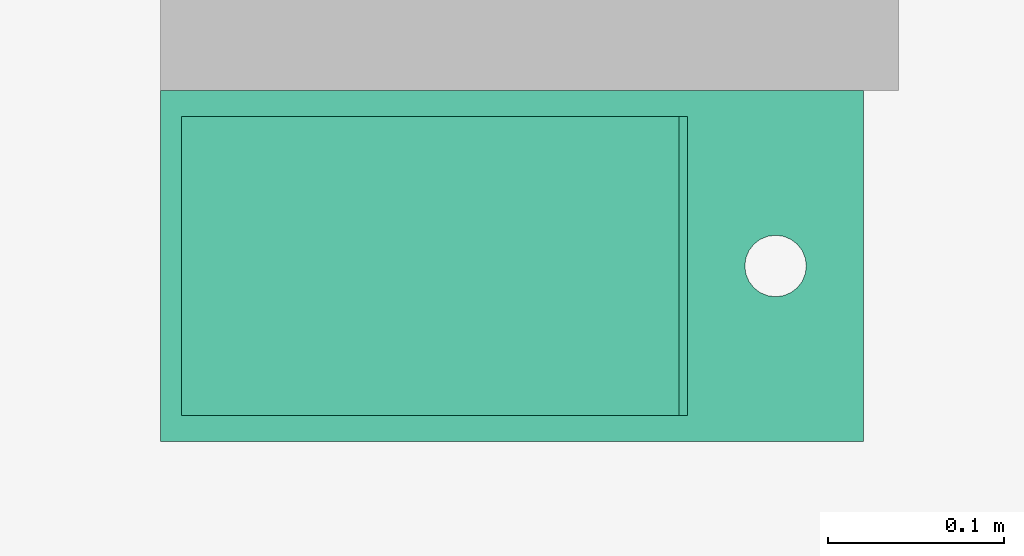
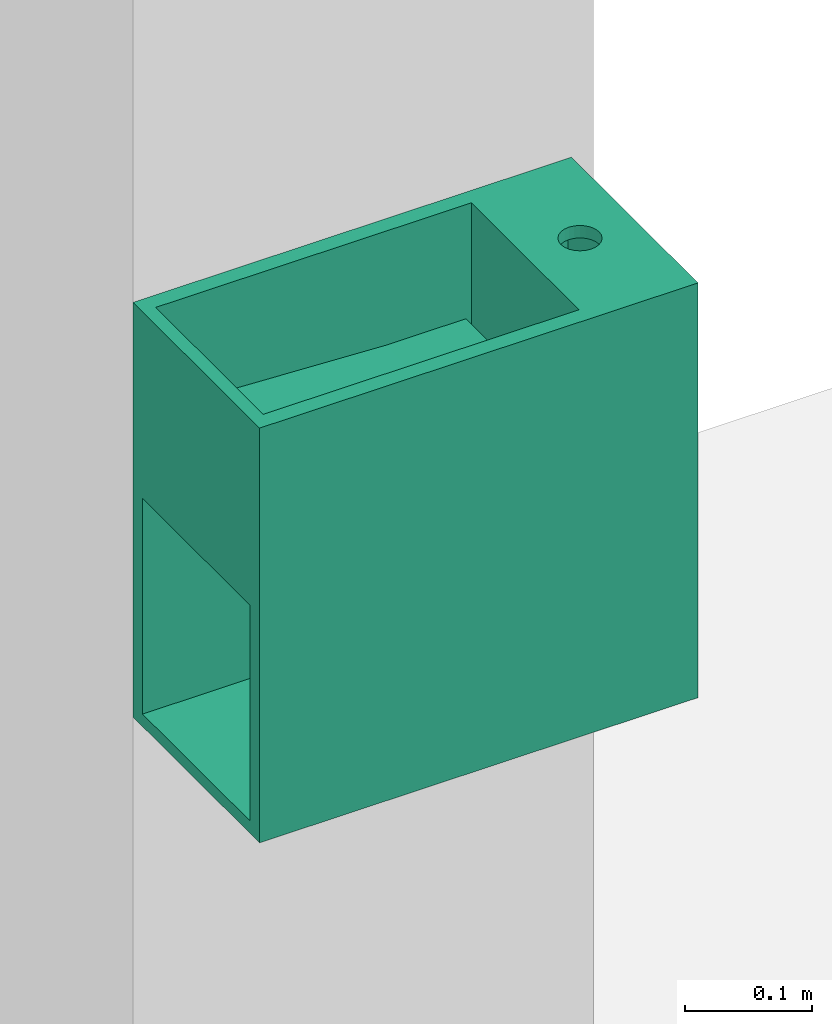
# One storey, part 2 of 2: 1 flow terminal.
"""IFC2X3 building model written with IfcOpenShell, lengths in millimetres."""

from ifc_helpers import new_model, entity, si_unit, converted_unit, derived_unit, direction, frame, origin, place, context, subcontext, project, spatial, faceted_brep, source, transform, mapped, material, element, save


model = new_model("IFC2X3")

# Units and contexts
model_context = context("Model", 3, precision=0.01, world=origin(), true_north=direction((6.12303176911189e-17, 1.0)))
context_of_model = context(None, 3, precision=0.01, world=origin(), true_north=direction((6.12303176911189e-17, 1.0)))
body_context = subcontext(model_context, "Body", "Model", "MODEL_VIEW")
ifc_project = project(units=[si_unit("LENGTHUNIT", "METRE", prefix="MILLI"), si_unit("AREAUNIT", "SQUARE_METRE"), si_unit("VOLUMEUNIT", "CUBIC_METRE"), converted_unit("PLANEANGLEUNIT", "DEGREE", entity("IfcRatioMeasure", 0.0174532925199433), si_unit("PLANEANGLEUNIT", "RADIAN"), dimensions=[0, 0, 0, 0, 0, 0, 0]), si_unit("MASSUNIT", "GRAM", prefix="KILO"), derived_unit("MASSDENSITYUNIT", [(si_unit("MASSUNIT", "GRAM", prefix="KILO"), 1), (si_unit("LENGTHUNIT", "METRE"), -3)]), si_unit("TIMEUNIT", "SECOND"), si_unit("FREQUENCYUNIT", "HERTZ"), si_unit("THERMODYNAMICTEMPERATUREUNIT", "DEGREE_CELSIUS"), derived_unit("THERMALTRANSMITTANCEUNIT", [(si_unit("MASSUNIT", "GRAM", prefix="KILO"), 1), (si_unit("THERMODYNAMICTEMPERATUREUNIT", "KELVIN"), -1), (si_unit("TIMEUNIT", "SECOND"), -3)]), derived_unit("VOLUMETRICFLOWRATEUNIT", [(si_unit("LENGTHUNIT", "METRE"), 3), (si_unit("TIMEUNIT", "SECOND"), -1)]), si_unit("ELECTRICCURRENTUNIT", "AMPERE"), si_unit("ELECTRICVOLTAGEUNIT", "VOLT"), si_unit("POWERUNIT", "WATT"), si_unit("FORCEUNIT", "NEWTON", prefix="KILO"), si_unit("ILLUMINANCEUNIT", "LUX"), si_unit("LUMINOUSFLUXUNIT", "LUMEN"), si_unit("LUMINOUSINTENSITYUNIT", "CANDELA"), derived_unit("USERDEFINED", [(si_unit("MASSUNIT", "GRAM", prefix="KILO"), -1), (si_unit("LENGTHUNIT", "METRE"), -2), (si_unit("TIMEUNIT", "SECOND"), 3), (si_unit("LUMINOUSFLUXUNIT", "LUMEN"), 1)]), derived_unit("LINEARVELOCITYUNIT", [(si_unit("LENGTHUNIT", "METRE"), 1), (si_unit("TIMEUNIT", "SECOND"), -1)]), si_unit("PRESSUREUNIT", "PASCAL"), derived_unit("USERDEFINED", [(si_unit("LENGTHUNIT", "METRE"), -2), (si_unit("MASSUNIT", "GRAM", prefix="KILO"), 1), (si_unit("TIMEUNIT", "SECOND"), -2)])], contexts=[model_context, context_of_model])

# Site, building, storey
site_placement = place(None, origin())
site = spatial("IfcSite", under=ifc_project, at=site_placement, Name="Default", CompositionType="ELEMENT")
building_placement = place(site_placement, origin())
building = spatial("IfcBuilding", under=site, at=building_placement, Name="n/a", CompositionType="ELEMENT")
storey_placement = place(building_placement, origin())
storey = spatial("IfcBuildingStorey", under=building, at=storey_placement, Name="Level 0", CompositionType="ELEMENT", Elevation=0.0)

# Flow terminal
ifc_material = material(Name="DBLTD_Neilur_SolidSurface_White")
shared_shape = source(origin(), body_context, "Body", "Brep", [
    faceted_brep([(104.999799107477, 185.0, 289.998284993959), (104.999799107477, 15.0, 289.998284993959), (177.99863639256, 15.0, 289.998284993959), (177.99863639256, 185.0, 289.998284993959), (104.999799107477, 185.0, 280.99899783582), (177.99863639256, 185.0, 280.99899783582), (177.99863639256, 15.0, 280.99899783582), (104.999799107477, 15.0, 280.99899783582)], [[[0, 1, 2, 3]], [[4, 5, 6, 7]], [[1, 0, 4, 7]], [[2, 1, 7, 6]], [[3, 2, 6, 5]], [[0, 3, 5, 4]]]),
    faceted_brep([(387.997929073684, 185.0, 219.999295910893), (387.997929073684, 185.0, 287.984553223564), (189.998640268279, 185.0, 278.55690154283), (189.998640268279, 185.0, 11.9997777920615), (400.0, 185.0, 11.9997777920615), (400.0, 185.0, 219.999295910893), (177.998636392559, 185.0, 277.998927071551), (177.998636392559, 185.0, 289.999813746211), (387.997929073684, 185.0, 299.998869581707), (387.997929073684, 185.0, 399.998320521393), (99.9991279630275, 185.0, 399.998320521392), (99.9991279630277, 185.0, 277.998927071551), (87.9986363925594, 185.0, 265.998923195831), (87.9986363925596, 185.0, 387.99876881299), (11.9990995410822, 185.0, 387.998768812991), (11.9990995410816, 185.0, 0.0), (177.998636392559, 185.0, 0.0), (177.99863639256, 185.0, 265.998923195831), (46.0, 14.9973722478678, 326.926523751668), (44.3431457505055, 14.9973722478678, 325.655174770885), (11.9990995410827, 14.9973722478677, 387.998768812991), (47.9294476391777, 14.9973722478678, 327.725727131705), (43.0717967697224, 14.9973722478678, 323.998320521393), (42.2725933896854, 14.9973722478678, 322.068872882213), (42.0, 14.9973722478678, 319.998320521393), (42.2725933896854, 14.9973722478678, 317.927768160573), (29.9992345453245, 14.9973722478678, 229.998782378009), (43.0717967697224, 14.9973722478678, 315.998320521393), (44.3431457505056, 14.9973722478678, 314.3414662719), (46.0, 14.9973722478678, 313.070117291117), (47.9294476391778, 14.9973722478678, 312.27091391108), (50.0, 14.9973722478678, 311.998320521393), (87.99863639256, 14.997372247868, 265.998923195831), (52.0705523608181, 14.9973722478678, 312.27091391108), (54.0, 14.9973722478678, 313.070117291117), (55.6568542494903, 14.9973722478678, 314.3414662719), (56.9282032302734, 14.9973722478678, 315.998320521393), (57.7274066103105, 14.9973722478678, 317.927768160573), (58.0, 14.9973722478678, 319.998320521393), (87.9986363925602, 14.997372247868, 387.99876881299), (57.7274066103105, 14.9973722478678, 322.068872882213), (56.9282032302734, 14.9973722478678, 323.998320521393), (55.6568542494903, 14.9973722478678, 325.655174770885), (54.0, 14.9973722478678, 326.926523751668), (52.0705523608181, 14.9973722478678, 327.725727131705), (50.0, 14.9973722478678, 327.998320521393), (177.99863639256, 14.9973722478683, 229.998782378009), (177.99863639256, 14.9973722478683, 265.998923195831), (11.9990995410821, 14.9973722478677, 0.0), (29.9992345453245, 14.9973722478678, 29.9998482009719), (177.99863639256, 14.9973722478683, 0.0), (177.99863639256, 14.9973722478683, 29.9998482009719), (177.99863639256, 14.9973722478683, 289.999813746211), (177.99863639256, 14.9973722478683, 277.998927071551), (99.9991279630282, 14.997372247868, 277.998927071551), (99.999127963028, 14.997372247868, 399.998320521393), (387.997929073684, 14.9973722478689, 399.998320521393), (387.997929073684, 14.9973722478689, 299.998869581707), (347.92944763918, 14.9973722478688, 267.725727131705), (346.0, 14.9973722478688, 266.926523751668), (189.998640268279, 14.9973722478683, 278.55690154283), (387.997929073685, 14.9973722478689, 287.984553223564), (350.0, 14.9973722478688, 267.998320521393), (344.343145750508, 14.9973722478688, 265.655174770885), (343.071796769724, 14.9973722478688, 263.998320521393), (342.272593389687, 14.9973722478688, 262.068872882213), (342.0, 14.997372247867, 259.998320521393), (342.272593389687, 14.9973722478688, 257.927768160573), (343.071796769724, 14.9973722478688, 255.998320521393), (344.343145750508, 14.9973722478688, 254.3414662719), (189.998640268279, 14.9973722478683, 11.9997777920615), (346.0, 14.9973722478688, 253.070117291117), (387.997929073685, 14.9973722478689, 219.999295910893), (347.92944763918, 14.9973722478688, 252.27091391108), (350.0, 14.9973722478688, 251.998320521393), (352.07055236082, 14.9973722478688, 252.27091391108), (354.0, 14.9973722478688, 253.070117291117), (355.656854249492, 14.9973722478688, 254.3414662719), (356.928203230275, 14.9973722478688, 255.998320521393), (357.727406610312, 14.9973722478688, 257.927768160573), (358.0, 14.9973722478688, 259.998320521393), (357.727406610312, 14.9973722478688, 262.068872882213), (356.928203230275, 14.9973722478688, 263.998320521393), (355.656854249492, 14.9973722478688, 265.655174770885), (354.0, 14.9973722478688, 266.926523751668), (352.07055236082, 14.9973722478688, 267.725727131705), (400.0, 14.997372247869, 11.9997777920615), (400.0, 14.997372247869, 219.999295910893), (400.0, 200.0, 399.998320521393), (400.0, 0.0, 399.998320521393), (0.0, 200.0, 399.998320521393), (50.0, 117.500000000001, 399.998320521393), (45.4706667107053, 116.90370196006, 399.998320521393), (41.2499999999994, 115.155444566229, 399.998320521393), (37.6256313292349, 112.374368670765, 399.998320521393), (34.8445554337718, 108.750000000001, 399.998320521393), (33.0962980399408, 104.529333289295, 399.998320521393), (32.4999999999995, 100.0, 399.998320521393), (0.0, 0.0, 399.998320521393), (50.0, 82.500000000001, 399.998320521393), (45.4706667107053, 83.0962980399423, 399.998320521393), (41.2499999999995, 84.8445554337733, 399.998320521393), (37.6256313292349, 87.6256313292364, 399.998320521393), (34.8445554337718, 91.250000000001, 399.998320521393), (33.0962980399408, 95.4706667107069, 399.998320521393), (54.5293332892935, 116.90370196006, 399.998320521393), (58.7499999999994, 115.155444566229, 399.998320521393), (62.374368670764, 112.374368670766, 399.998320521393), (65.1554445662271, 108.750000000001, 399.998320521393), (66.9037019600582, 104.529333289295, 399.998320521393), (67.4999999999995, 100.0, 399.998320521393), (66.9037019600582, 95.4706667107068, 399.998320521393), (65.1554445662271, 91.2500000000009, 399.998320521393), (62.374368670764, 87.6256313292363, 399.998320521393), (58.7499999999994, 84.8445554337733, 399.998320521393), (54.5293332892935, 83.0962980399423, 399.998320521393), (0.0, 200.0, 0.0), (0.0, 0.0, 0.0), (400.0, 200.0, 0.0), (400.0, 0.0, 0.0), (42.2725933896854, 0.0, 322.068872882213), (43.0717967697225, 0.0, 323.998320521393), (42.0, 0.0, 319.998320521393), (44.3431457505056, 0.0, 325.655174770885), (46.0, 0.0, 326.926523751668), (47.9294476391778, 0.0, 327.725727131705), (50.0, 0.0, 327.998320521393), (52.0705523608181, 0.0, 327.725727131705), (42.2725933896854, 0.0, 317.927768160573), (29.9992345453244, 0.0, 229.998782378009), (54.0, 0.0, 326.926523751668), (55.6568542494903, 0.0, 325.655174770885), (29.9992345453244, 0.0, 29.9998482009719), (179.998895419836, 0.0, 29.9998482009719), (358.0, 0.0, 259.998320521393), (357.727406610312, 0.0, 257.927768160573), (356.928203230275, 0.0, 255.998320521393), (355.656854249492, 0.0, 254.3414662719), (354.0, 0.0, 253.070117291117), (352.07055236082, 0.0, 252.27091391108), (350.0, 0.0, 251.998320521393), (347.92944763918, 0.0, 252.27091391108), (346.0, 0.0, 253.070117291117), (179.998895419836, 0.0, 229.998782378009), (43.0717967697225, 0.0, 315.998320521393), (44.3431457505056, 0.0, 314.3414662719), (46.0, 0.0, 313.070117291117), (47.9294476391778, 0.0, 312.27091391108), (50.0, 0.0, 311.998320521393), (52.0705523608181, 0.0, 312.27091391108), (54.0, 0.0, 313.070117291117), (55.6568542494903, 0.0, 314.3414662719), (56.9282032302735, 0.0, 315.998320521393), (56.9282032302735, 0.0, 323.998320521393), (57.7274066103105, 0.0, 322.068872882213), (58.0, 0.0, 319.998320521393), (57.7274066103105, 0.0, 317.927768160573), (344.343145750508, 0.0, 265.655174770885), (346.0, 0.0, 266.926523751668), (347.92944763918, 0.0, 267.725727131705), (350.0, 0.0, 267.998320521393), (352.07055236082, 0.0, 267.725727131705), (354.0, 0.0, 266.926523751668), (355.656854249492, 0.0, 265.655174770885), (356.928203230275, 0.0, 263.998320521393), (357.727406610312, 0.0, 262.068872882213), (344.343145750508, 0.0, 254.3414662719), (343.071796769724, 0.0, 255.998320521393), (342.272593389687, 0.0, 257.927768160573), (342.0, 0.0, 259.998320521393), (342.272593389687, 0.0, 262.068872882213), (343.071796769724, 0.0, 263.998320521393), (34.8445554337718, 91.2500000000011, 387.998768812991), (33.0962980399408, 95.470666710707, 387.998768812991), (32.4999999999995, 100.0, 387.998768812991), (45.4706667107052, 83.0962980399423, 387.998768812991), (41.2499999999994, 84.8445554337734, 387.998768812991), (37.6256313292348, 87.6256313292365, 387.998768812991), (50.0, 82.500000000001, 387.998768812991), (62.3743686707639, 87.6256313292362, 387.998768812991), (58.7499999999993, 84.8445554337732, 387.998768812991), (54.5293332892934, 83.0962980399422, 387.998768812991), (67.4999999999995, 100.0, 387.998768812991), (66.9037019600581, 95.4706667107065, 387.998768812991), (65.155444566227, 91.2500000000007, 387.998768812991), (65.1554445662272, 108.750000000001, 387.998768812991), (66.9037019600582, 104.529333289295, 387.998768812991), (54.5293332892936, 116.90370196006, 387.998768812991), (58.7499999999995, 115.155444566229, 387.998768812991), (62.3743686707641, 112.374368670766, 387.998768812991), (50.0, 117.500000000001, 387.998768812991), (37.6256313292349, 112.374368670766, 387.998768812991), (41.2499999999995, 115.155444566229, 387.998768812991), (45.4706667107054, 116.90370196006, 387.998768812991), (33.0962980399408, 104.529333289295, 387.998768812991), (34.8445554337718, 108.750000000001, 387.998768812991), (179.998895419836, 14.9973722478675, 29.9998482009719), (179.998895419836, 14.9973722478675, 229.998782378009), (131.395731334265, 71.6246547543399, 277.998927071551), (124.310722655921, 74.5593614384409, 277.998927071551), (138.998882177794, 70.6236809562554, 277.998927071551), (118.226687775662, 79.2278055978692, 277.998927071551), (113.558243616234, 85.3118404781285, 277.998927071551), (110.623536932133, 92.3968491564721, 277.998927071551), (109.622563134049, 100.0, 277.998927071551), (110.623536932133, 107.60315084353, 277.998927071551), (113.558243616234, 114.688159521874, 277.998927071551), (118.226687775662, 120.772194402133, 277.998927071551), (124.310722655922, 125.440638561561, 277.998927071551), (131.395731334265, 128.375345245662, 277.998927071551), (138.998882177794, 129.376319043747, 277.998927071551), (146.602033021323, 128.375345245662, 277.998927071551), (153.687041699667, 125.440638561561, 277.998927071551), (159.771076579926, 120.772194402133, 277.998927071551), (164.439520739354, 114.688159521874, 277.998927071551), (167.374227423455, 107.60315084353, 277.998927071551), (168.37520122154, 100.0, 277.998927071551), (167.374227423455, 92.3968491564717, 277.998927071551), (164.439520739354, 85.3118404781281, 277.998927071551), (159.771076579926, 79.2278055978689, 277.998927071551), (153.687041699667, 74.5593614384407, 277.998927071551), (146.602033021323, 71.6246547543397, 277.998927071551), (150.21716703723, 92.3757982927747, 268.173796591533), (151.269849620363, 94.9171988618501, 268.173796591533), (152.322532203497, 97.4585994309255, 268.173796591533), (152.885353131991, 96.2791313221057, 265.998923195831), (151.449151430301, 92.8118336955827, 265.998923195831), (141.54028274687, 86.6763499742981, 268.173796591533), (144.081683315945, 87.7290325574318, 268.173796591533), (146.62308388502, 88.7817151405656, 268.173796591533), (146.187048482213, 87.5497307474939, 265.998923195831), (142.71975085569, 86.113529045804, 265.998923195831), (153.375214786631, 100.0, 265.998923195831), (138.998882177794, 114.376332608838, 268.173796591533), (138.998882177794, 114.376332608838, 265.998923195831), (141.54028274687, 113.323650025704, 268.173796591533), (149.164484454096, 110.165602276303, 265.998923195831), (149.164484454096, 110.165602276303, 268.173796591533), (146.62308388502, 111.218284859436, 268.173796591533), (149.164484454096, 89.8343977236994, 265.998923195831), (138.998882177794, 85.6236673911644, 265.998923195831), (149.164484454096, 89.8343977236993, 268.173796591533), (153.375214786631, 100.0, 268.173796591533), (151.449151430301, 107.188166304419, 265.998923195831), (152.885353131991, 103.720868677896, 265.998923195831), (152.322532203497, 102.541400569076, 268.173796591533), (151.269849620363, 105.082801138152, 268.173796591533), (150.21716703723, 107.624201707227, 268.173796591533), (138.998882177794, 85.6236673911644, 268.173796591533), (142.71975085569, 113.886470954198, 265.998923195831), (146.187048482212, 112.450269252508, 265.998923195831), (144.081683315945, 112.27096744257, 268.173796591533), (127.780597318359, 107.624201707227, 268.173796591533), (126.727914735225, 105.082801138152, 268.173796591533), (125.675232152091, 102.541400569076, 268.173796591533), (125.112411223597, 103.720868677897, 265.998923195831), (126.548612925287, 107.188166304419, 265.998923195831), (136.457481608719, 113.323650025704, 268.173796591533), (133.916081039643, 112.27096744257, 268.173796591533), (131.374680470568, 111.218284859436, 268.173796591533), (131.810715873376, 112.450269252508, 265.998923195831), (135.278013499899, 113.886470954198, 265.998923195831), (124.622549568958, 100.0, 265.998923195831), (136.457481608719, 86.6763499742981, 268.173796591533), (128.833279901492, 89.8343977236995, 265.998923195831), (128.833279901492, 89.8343977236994, 268.173796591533), (131.374680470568, 88.7817151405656, 268.173796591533), (128.833279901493, 110.165602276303, 265.998923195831), (128.833279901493, 110.165602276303, 268.173796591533), (124.622549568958, 100.0, 268.173796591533), (126.548612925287, 92.8118336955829, 265.998923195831), (125.112411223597, 96.2791313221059, 265.998923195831), (125.675232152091, 97.4585994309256, 268.173796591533), (126.727914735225, 94.9171988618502, 268.173796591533), (127.780597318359, 92.3757982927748, 268.173796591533), (135.278013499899, 86.113529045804, 265.998923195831), (131.810715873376, 87.549730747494, 265.998923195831), (133.916081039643, 87.7290325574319, 268.173796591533)], [[[0, 1, 2, 3, 4, 5]], [[6, 7, 8, 9, 10, 11]], [[12, 13, 14, 15, 16, 17]], [[18, 19, 20]], [[20, 21, 18]], [[22, 20, 19]], [[20, 22, 23]], [[20, 23, 24]], [[25, 20, 24]], [[25, 26, 20]], [[26, 25, 27]], [[26, 27, 28]], [[29, 26, 28]], [[26, 29, 30]], [[30, 31, 26]], [[26, 31, 32]], [[32, 31, 33]], [[32, 33, 34]], [[35, 32, 34]], [[32, 35, 36]], [[36, 37, 32]], [[37, 38, 32]], [[39, 32, 38]], [[39, 38, 40]], [[39, 40, 41]], [[39, 41, 42]], [[42, 43, 39]], [[44, 39, 43]], [[39, 44, 45]], [[45, 21, 20]], [[20, 39, 45]], [[46, 26, 32]], [[47, 46, 32]], [[20, 26, 48]], [[26, 49, 48]], [[50, 48, 49]], [[49, 51, 50]], [[52, 53, 54, 55, 56, 57]], [[18, 19, 20]], [[20, 21, 18]], [[22, 20, 19]], [[20, 22, 23]], [[20, 23, 24]], [[25, 20, 24]], [[25, 26, 20]], [[26, 25, 27]], [[26, 27, 28]], [[29, 26, 28]], [[26, 29, 30]], [[30, 31, 26]], [[26, 31, 32]], [[32, 31, 33]], [[32, 33, 34]], [[35, 32, 34]], [[32, 35, 36]], [[36, 37, 32]], [[37, 38, 32]], [[39, 32, 38]], [[39, 38, 40]], [[39, 40, 41]], [[39, 41, 42]], [[42, 43, 39]], [[44, 39, 43]], [[39, 44, 45]], [[45, 21, 20]], [[20, 39, 45]], [[46, 26, 32]], [[47, 46, 32]], [[20, 26, 48]], [[26, 49, 48]], [[50, 48, 49]], [[49, 51, 50]], [[52, 56, 57]], [[55, 56, 52]], [[55, 52, 54]], [[53, 54, 52]], [[58, 59, 60]], [[61, 58, 60]], [[58, 61, 62]], [[63, 60, 59]], [[60, 63, 64]], [[60, 64, 65]], [[60, 65, 66]], [[66, 67, 60]], [[68, 60, 67]], [[69, 60, 68]], [[60, 69, 70]], [[69, 71, 70]], [[70, 71, 72]], [[72, 71, 73]], [[73, 74, 72]], [[72, 74, 75]], [[75, 76, 72]], [[72, 76, 77]], [[78, 72, 77]], [[72, 78, 79]], [[79, 80, 61]], [[79, 61, 72]], [[61, 80, 81]], [[61, 81, 82]], [[61, 82, 83]], [[83, 84, 61]], [[85, 61, 84]], [[61, 85, 62]], [[72, 86, 70]], [[72, 87, 86]], [[88, 9, 89]], [[9, 88, 10]], [[88, 90, 10]], [[91, 10, 90]], [[92, 91, 90]], [[92, 90, 93]], [[94, 93, 90]], [[90, 95, 94]], [[95, 90, 96]], [[97, 96, 90]], [[90, 98, 97]], [[55, 98, 89]], [[99, 98, 55]], [[99, 100, 98]], [[101, 98, 100]], [[102, 98, 101]], [[98, 102, 103]], [[103, 104, 98]], [[104, 97, 98]], [[10, 91, 105]], [[105, 106, 10]], [[106, 107, 10]], [[107, 108, 10]], [[109, 10, 108]], [[110, 10, 109]], [[55, 110, 111]], [[55, 10, 110]], [[111, 112, 55]], [[112, 113, 55]], [[113, 114, 55]], [[55, 114, 115]], [[99, 55, 115]], [[56, 89, 9]], [[89, 56, 55]], [[116, 15, 117]], [[15, 116, 16]], [[118, 16, 116]], [[16, 118, 119]], [[50, 119, 117]], [[119, 50, 16]], [[48, 117, 15]], [[117, 48, 50]], [[90, 88, 118, 116]], [[98, 90, 116, 117]], [[98, 120, 121]], [[120, 98, 122]], [[98, 121, 123]], [[123, 124, 98]], [[125, 98, 124]], [[125, 126, 98]], [[98, 126, 127]], [[128, 122, 98]], [[128, 98, 129]], [[130, 98, 127]], [[131, 98, 130]], [[131, 89, 98]], [[117, 129, 98]], [[129, 117, 132]], [[132, 117, 133]], [[117, 119, 133]], [[134, 119, 89]], [[134, 135, 119]], [[136, 119, 135]], [[136, 137, 119]], [[138, 119, 137]], [[119, 138, 139]], [[139, 140, 119]], [[140, 141, 119]], [[141, 133, 119]], [[142, 133, 141]], [[143, 133, 142]], [[129, 144, 128]], [[144, 129, 145]], [[146, 145, 129]], [[146, 129, 147]], [[148, 147, 129]], [[129, 149, 148]], [[129, 150, 149]], [[129, 151, 150]], [[143, 151, 129]], [[143, 152, 151]], [[153, 89, 131]], [[153, 143, 89]], [[154, 143, 153]], [[155, 143, 154]], [[143, 155, 156]], [[143, 156, 152]], [[89, 143, 157]], [[158, 89, 157]], [[158, 159, 89]], [[159, 160, 89]], [[161, 89, 160]], [[89, 161, 162]], [[162, 163, 89]], [[163, 164, 89]], [[164, 165, 89]], [[134, 89, 165]], [[142, 166, 143]], [[167, 143, 166]], [[168, 143, 167]], [[168, 169, 143]], [[169, 170, 143]], [[170, 171, 143]], [[157, 143, 171]], [[89, 87, 5]], [[87, 89, 119]], [[5, 88, 89]], [[119, 86, 87]], [[86, 119, 4]], [[118, 4, 119]], [[88, 5, 118]], [[4, 118, 5]], [[103, 172, 173, 104]], [[104, 173, 174, 97]], [[100, 175, 176, 101]], [[101, 176, 177, 102]], [[102, 177, 172, 103]], [[175, 100, 99, 178]], [[113, 179, 180, 114]], [[114, 180, 181, 115]], [[110, 182, 183, 111]], [[111, 183, 184, 112]], [[112, 184, 179, 113]], [[178, 99, 115, 181]], [[108, 185, 186, 109]], [[109, 186, 182, 110]], [[105, 187, 188, 106]], [[106, 188, 189, 107]], [[107, 189, 185, 108]], [[187, 105, 91, 190]], [[94, 191, 192, 93]], [[93, 192, 193, 92]], [[97, 174, 194, 96]], [[96, 194, 195, 95]], [[95, 195, 191, 94]], [[190, 91, 92, 193]], [[196, 197, 46, 51]], [[67, 66, 169, 168]], [[67, 168, 167, 68]], [[71, 69, 166, 142]], [[166, 69, 68, 167]], [[73, 71, 142, 141]], [[73, 141, 140, 74]], [[74, 140, 139, 75]], [[75, 139, 138, 76]], [[78, 77, 137, 136]], [[137, 77, 76, 138]], [[79, 78, 136, 135]], [[79, 135, 134, 80]], [[80, 134, 165, 81]], [[81, 165, 164, 82]], [[84, 83, 163, 162]], [[163, 83, 82, 164]], [[85, 84, 162, 161]], [[85, 161, 160, 62]], [[62, 160, 159, 58]], [[58, 159, 158, 59]], [[64, 63, 157, 171]], [[157, 63, 59, 158]], [[65, 64, 171, 170]], [[65, 170, 169, 66]], [[24, 122, 128, 25]], [[25, 128, 144, 27]], [[29, 28, 145, 146]], [[144, 145, 28, 27]], [[30, 29, 146, 147]], [[148, 31, 30, 147]], [[33, 149, 150, 34]], [[34, 150, 151, 35]], [[37, 36, 152, 156]], [[151, 152, 36, 35]], [[38, 37, 156, 155]], [[33, 31, 148, 149]], [[38, 155, 154, 40]], [[40, 154, 153, 41]], [[43, 42, 131, 130]], [[153, 131, 42, 41]], [[44, 43, 130, 127]], [[126, 45, 44, 127]], [[21, 125, 124, 18]], [[18, 124, 123, 19]], [[23, 22, 121, 120]], [[123, 121, 22, 19]], [[24, 23, 120, 122]], [[21, 45, 126, 125]], [[2, 60, 70, 3]], [[1, 61, 60, 2]], [[1, 0, 72, 61]], [[8, 57, 56, 9]], [[3, 70, 86, 4]], [[7, 52, 57, 8]], [[7, 6, 53, 52]], [[16, 50, 51, 46, 47, 17]], [[198, 199, 54]], [[200, 198, 54]], [[201, 54, 199]], [[54, 201, 202]], [[54, 202, 203]], [[54, 203, 204]], [[204, 11, 54]], [[11, 204, 205]], [[11, 205, 206]], [[11, 206, 207]], [[207, 208, 11]], [[209, 11, 208]], [[11, 209, 210]], [[210, 6, 11]], [[6, 210, 211]], [[6, 211, 212]], [[212, 213, 6]], [[214, 6, 213]], [[6, 214, 215]], [[6, 215, 216]], [[53, 6, 216]], [[216, 217, 53]], [[53, 217, 218]], [[53, 218, 219]], [[53, 219, 220]], [[220, 221, 53]], [[221, 200, 53]], [[54, 53, 200]], [[11, 10, 55, 54]], [[222, 223, 224, 225, 226]], [[227, 228, 229, 230, 231]], [[225, 224, 232]], [[233, 234, 235]], [[236, 237, 238]], [[226, 239, 222]], [[240, 227, 231]], [[230, 229, 239]], [[239, 241, 222]], [[242, 232, 224]], [[243, 244, 245, 246, 247]], [[227, 240, 248]], [[241, 239, 229]], [[249, 250, 238, 251, 235]], [[237, 236, 247]], [[245, 232, 242]], [[250, 236, 238]], [[249, 235, 234]], [[243, 247, 236]], [[245, 244, 232]], [[252, 253, 254, 255, 256]], [[257, 258, 259, 260, 261]], [[255, 254, 262]], [[248, 240, 263]], [[264, 265, 266]], [[256, 267, 252]], [[234, 257, 261]], [[260, 259, 267]], [[267, 268, 252]], [[269, 262, 254]], [[270, 271, 272, 273, 274]], [[257, 234, 233]], [[268, 267, 259]], [[275, 276, 266, 277, 263]], [[265, 264, 274]], [[272, 262, 269]], [[276, 264, 266]], [[275, 263, 240]], [[270, 274, 264]], [[272, 271, 262]], [[229, 219, 241]], [[248, 200, 227]], [[224, 223, 222, 218, 217]], [[216, 224, 217]], [[224, 216, 242]], [[241, 219, 222]], [[218, 222, 219]], [[237, 213, 238]], [[235, 210, 233]], [[247, 246, 245, 215, 214]], [[219, 229, 220]], [[221, 227, 200]], [[221, 220, 229, 228, 227]], [[212, 211, 235, 251, 238]], [[247, 213, 237]], [[242, 216, 245]], [[212, 238, 213]], [[215, 245, 216]], [[211, 210, 235]], [[213, 247, 214]], [[259, 207, 268]], [[233, 210, 257]], [[254, 253, 252, 206, 205]], [[204, 254, 205]], [[254, 204, 269]], [[268, 207, 252]], [[206, 252, 207]], [[198, 263, 277, 266, 199]], [[274, 273, 272, 203, 202]], [[207, 259, 208]], [[209, 257, 210]], [[208, 259, 258, 257, 209]], [[274, 201, 265]], [[269, 204, 272]], [[248, 263, 200]], [[265, 201, 266]], [[198, 200, 263]], [[203, 272, 204]], [[202, 201, 274]], [[199, 266, 201]], [[0, 5, 87, 72]], [[12, 32, 39, 13]], [[181, 180, 39]], [[178, 181, 39]], [[179, 39, 180]], [[39, 179, 184]], [[39, 184, 183]], [[39, 183, 182]], [[182, 13, 39]], [[13, 182, 186]], [[13, 186, 185]], [[13, 185, 189]], [[189, 188, 13]], [[187, 13, 188]], [[13, 187, 190]], [[190, 14, 13]], [[14, 190, 193]], [[14, 193, 192]], [[192, 191, 14]], [[195, 14, 191]], [[14, 195, 194]], [[14, 194, 174]], [[20, 14, 174]], [[174, 173, 20]], [[20, 173, 172]], [[20, 172, 177]], [[20, 177, 176]], [[176, 175, 20]], [[175, 178, 20]], [[39, 20, 178]], [[14, 20, 48, 15]], [[240, 231, 47]], [[32, 240, 47]], [[240, 32, 275]], [[230, 47, 231]], [[47, 230, 239]], [[47, 239, 226]], [[47, 226, 225]], [[225, 232, 47]], [[17, 47, 232]], [[17, 232, 244]], [[17, 244, 243]], [[243, 236, 17]], [[250, 17, 236]], [[17, 250, 249]], [[249, 234, 17]], [[12, 17, 234]], [[12, 234, 261]], [[261, 260, 12]], [[267, 12, 260]], [[12, 267, 256]], [[12, 256, 255]], [[262, 12, 255]], [[32, 262, 271]], [[12, 262, 32]], [[276, 275, 32]], [[264, 276, 32]], [[32, 270, 264]], [[32, 271, 270]], [[49, 26, 129, 132]], [[51, 49, 132, 133, 196]], [[197, 196, 133, 143]], [[46, 197, 143, 129, 26]]]),
])
flow_terminal_placement = place(storey_placement, frame((2667.55113487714, 652.680190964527, 600.0), z_axis=(0.0, 0.0, 1.0), x_axis=(-1.0, 0.0, 0.0)))
element("IfcFlowTerminal", 1, at=flow_terminal_placement, inside=storey, material=ifc_material, Name="17", ObjectType="DBLTD_Neilur_WallHungWashbasins_700340:Wall Mounted Basin", context=body_context, shape_type="MappedRepresentation", body=[
    mapped(shared_shape, transform((0.0, 0.0, 0.0), scale=1.0)),
])

save(model, "model.ifc")
